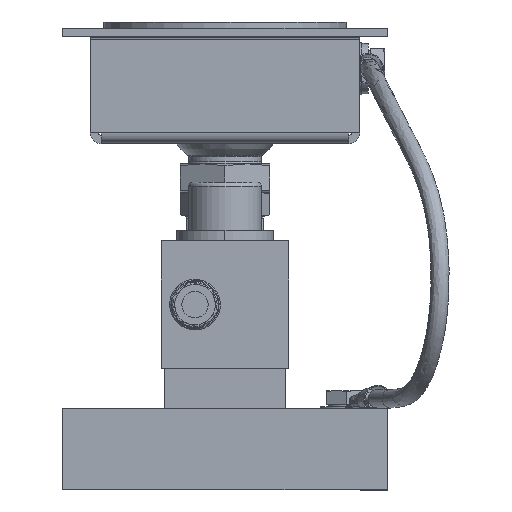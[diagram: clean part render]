
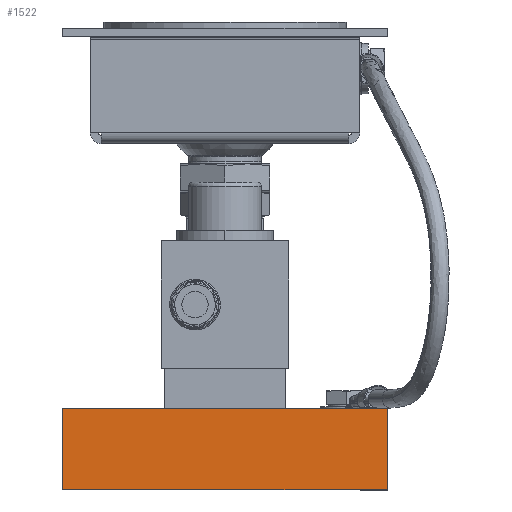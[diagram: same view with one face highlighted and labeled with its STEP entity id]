
A CAD part, front view. The second image highlights one B-rep face of the part: STEP entity #1522.
In plain terms, the highlighted planar face has unit normal (0, -1, 0) as drawn and (-1, 0, 0) by its records, which use the part's own axes.
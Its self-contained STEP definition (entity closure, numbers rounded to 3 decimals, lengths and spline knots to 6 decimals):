
#1522=ADVANCED_FACE('230:926',(#2861),#2862,.T.);
#2861=FACE_OUTER_BOUND('',#11404,.T.);
#2862=PLANE('',#11405);
#11404=EDGE_LOOP('',(#16082,#16083,#16084,#16085));
#11405=AXIS2_PLACEMENT_3D('',#16086,#16087,#16088);
#16082=ORIENTED_EDGE('',*,*,#17670,.T.);
#16083=ORIENTED_EDGE('',*,*,#17676,.F.);
#16084=ORIENTED_EDGE('',*,*,#17655,.F.);
#16085=ORIENTED_EDGE('',*,*,#17675,.T.);
#16086=CARTESIAN_POINT('',(-0.075,0.0,0.0));
#16087=DIRECTION('',(-1.0,-0.0,0.0));
#16088=DIRECTION('',(0.0,-1.0,-0.0));
#17655=EDGE_CURVE('230:968',#20058,#20059,#20060,.T.);
#17670=EDGE_CURVE('230:965',#20079,#20076,#20080,.F.);
#17675=EDGE_CURVE('230:959',#20058,#20079,#20086,.F.);
#17676=EDGE_CURVE('230:944',#20059,#20076,#20087,.T.);
#20058=VERTEX_POINT('',#25147);
#20059=VERTEX_POINT('',#25148);
#20060=LINE('',#25149,#25150);
#20076=VERTEX_POINT('',#25169);
#20079=VERTEX_POINT('',#25173);
#20080=LINE('',#25174,#25175);
#20086=LINE('',#25185,#25186);
#20087=LINE('',#25187,#25188);
#25147=CARTESIAN_POINT('',(-0.075,-0.04,0.0));
#25148=CARTESIAN_POINT('',(-0.075,0.04,0.0));
#25149=CARTESIAN_POINT('',(-0.075,0.0,0.0));
#25150=VECTOR('',#27743,1.0);
#25169=CARTESIAN_POINT('',(-0.075,0.04,0.02));
#25173=CARTESIAN_POINT('',(-0.075,-0.04,0.02));
#25174=CARTESIAN_POINT('',(-0.075,0.0,0.02));
#25175=VECTOR('',#27778,1.0);
#25185=CARTESIAN_POINT('',(-0.075,-0.04,0.0));
#25186=VECTOR('',#27783,1.0);
#25187=CARTESIAN_POINT('',(-0.075,0.04,0.0));
#25188=VECTOR('',#27784,1.0);
#27743=DIRECTION('',(0.0,1.0,-0.0));
#27778=DIRECTION('',(0.0,-1.0,0.0));
#27783=DIRECTION('',(-0.0,-0.0,-1.0));
#27784=DIRECTION('',(0.0,-0.0,1.0));
